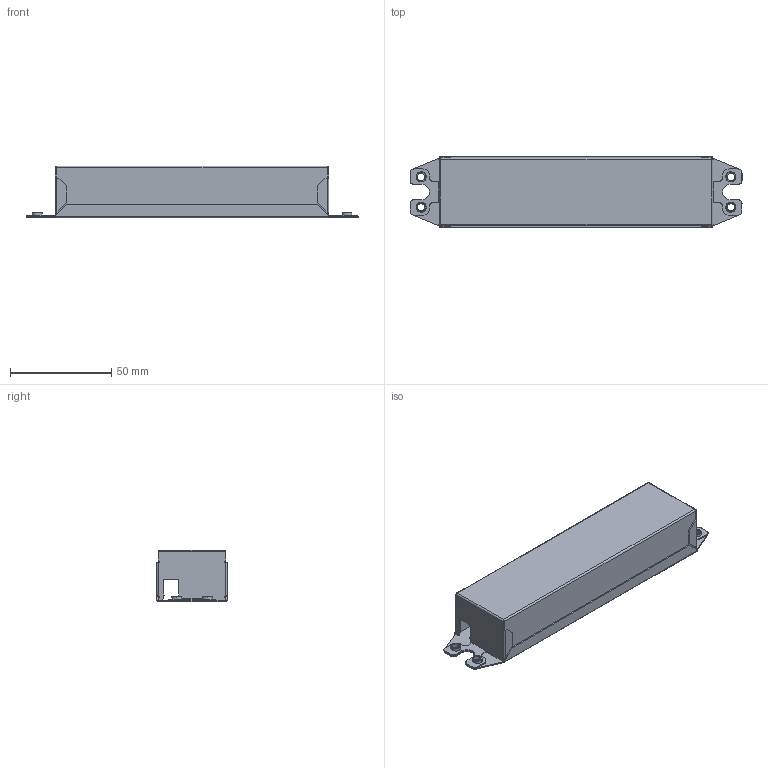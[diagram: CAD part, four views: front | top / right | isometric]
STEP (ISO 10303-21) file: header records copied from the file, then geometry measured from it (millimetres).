
FILE_DESCRIPTION (( 'STEP AP203' ), '1' );
FILE_NAME ('L7.STEP', '2015-09-10T02:07:27', ( '·L³n¥Î¤á' ), ( '·L³n¤¤°ê' ), 'SwSTEP 2.0', 'SolidWorks 2010', '' );
FILE_SCHEMA (( 'CONFIG_CONTROL_DESIGN' ));
Length unit declared in the file: millimetre
Products named in the file (3): 511-00004090; 511-00004100; L7
Assembly tree (2 placements, depth 2):
  L7
    511-00004100
    511-00004090
Bounding box: 164 x 34.9 x 25.4 mm (x, y, z)
Volume: 11865.8 mm3; surface area: 40328.1 mm2
Topology: 2 solids, 2 shells, 308 faces, 804 edges, 504 vertices
Faces by surface type: plane 212, cylinder 88, torus 8
Entity records: 9649 total; most frequent: CARTESIAN_POINT 1645, DIRECTION 1614, ORIENTED_EDGE 1608, EDGE_CURVE 804, VECTOR 604, LINE 604, AXIS2_PLACEMENT_3D 505, VERTEX_POINT 504
